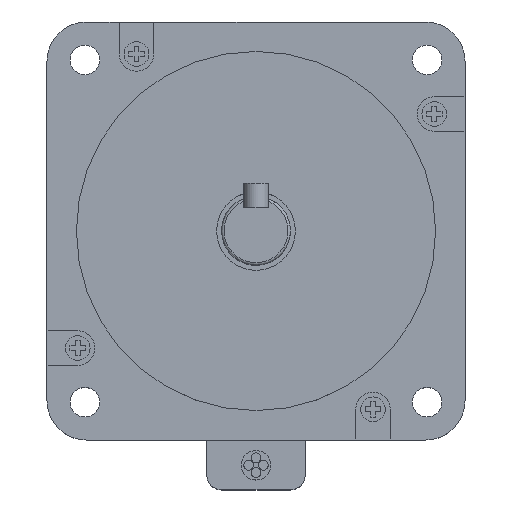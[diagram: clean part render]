
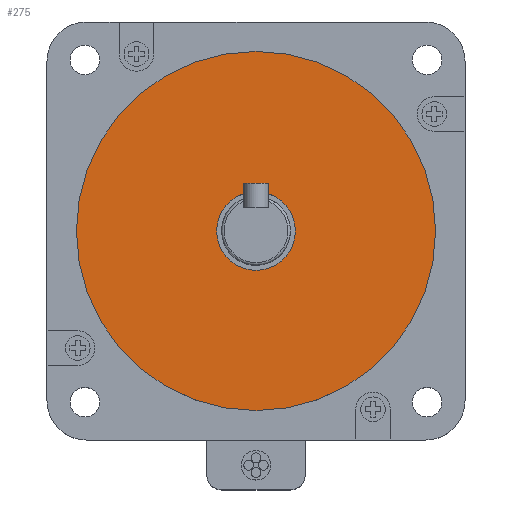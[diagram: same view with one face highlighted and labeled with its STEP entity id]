
A CAD part, top view. The second image highlights one B-rep face of the part: STEP entity #275.
In plain terms, the highlighted planar face has unit normal (0, 0, 1).
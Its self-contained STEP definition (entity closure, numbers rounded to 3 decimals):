
#213=FACE_BOUND('',#798,.T.);
#214=FACE_BOUND('',#799,.T.);
#275=ADVANCED_FACE('',(#213,#214),#472,.T.);
#472=PLANE('',#3914);
#798=EDGE_LOOP('',(#1435));
#799=EDGE_LOOP('',(#1436));
#1107=CIRCLE('',#3909,36.513);
#1108=CIRCLE('',#3911,8.);
#1435=ORIENTED_EDGE('',*,*,#2789,.T.);
#1436=ORIENTED_EDGE('',*,*,#2790,.F.);
#2413=VERTEX_POINT('',#5785);
#2414=VERTEX_POINT('',#5788);
#2789=EDGE_CURVE('',#2413,#2413,#1107,.T.);
#2790=EDGE_CURVE('',#2414,#2414,#1108,.T.);
#3909=AXIS2_PLACEMENT_3D('',#5784,#4541,#4542);
#3911=AXIS2_PLACEMENT_3D('',#5787,#4545,#4546);
#3914=AXIS2_PLACEMENT_3D('',#5792,#4551,#4552);
#4541=DIRECTION('',(0.,0.,1.));
#4542=DIRECTION('',(1.,0.,0.));
#4545=DIRECTION('',(0.,0.,1.));
#4546=DIRECTION('',(1.,0.,0.));
#4551=DIRECTION('',(0.,0.,1.));
#4552=DIRECTION('',(1.,0.,0.));
#5784=CARTESIAN_POINT('',(0.,0.,2.));
#5785=CARTESIAN_POINT('',(36.513,0.,2.));
#5787=CARTESIAN_POINT('',(0.,0.,2.));
#5788=CARTESIAN_POINT('',(8.,0.,2.));
#5792=CARTESIAN_POINT('',(0.,0.,2.));
